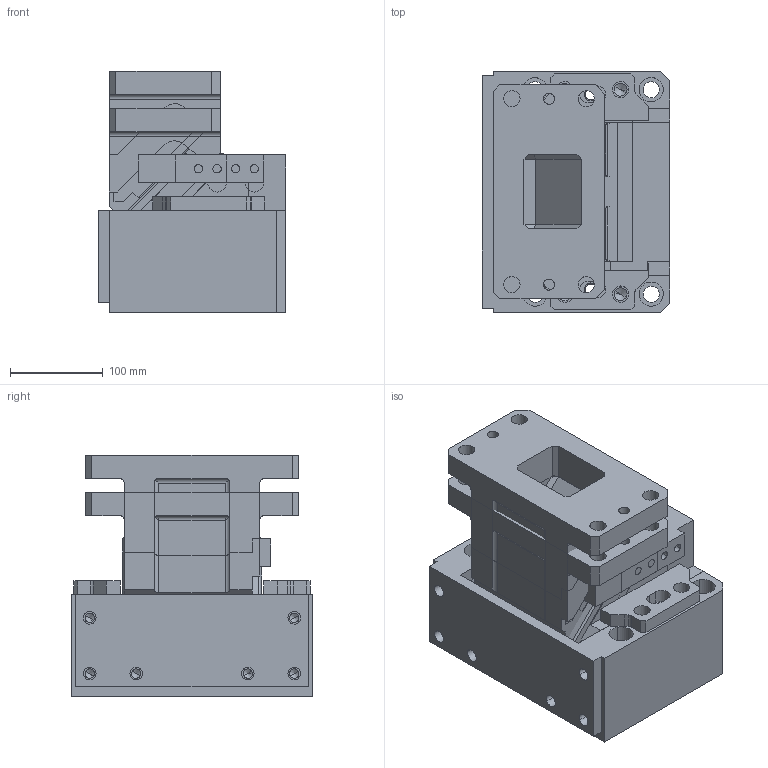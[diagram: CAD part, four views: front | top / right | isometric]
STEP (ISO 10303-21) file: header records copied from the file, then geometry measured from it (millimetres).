
FILE_DESCRIPTION(('CATIA V5 STEP','CAx-IF Rec.Pracs.--- Model Styling and Organization---1.4--- 2014-01-23','CAx-IF Rec.Pracs.---3D Tessellated Data Validation Properties---0.5---2014-09-14'),'2;1');
FILE_NAME('H:\_COMPRESS_2\2016.14.00.150.040.1.2__CM.stp','2020-11-18T12:53:12+00:00',('${USER}'),('AUDI AG, ${GROUP}'),'CATIA Version 5-6 Release 2018 SP3 HF27','CATIA V5 STEP AP242','none');
FILE_SCHEMA(('AP242_MANAGED_MODEL_BASED_3D_ENGINEERING_MIM_LF {1 0 10303 442 1 1 4}'));
Length unit declared in the file: millimetre
Products named in the file (1): 2016.14.00.150.040.1.2__CM
Bounding box: 202 x 260 x 260 mm (x, y, z)
Volume: 10660516.3 mm3; surface area: 871840.4 mm2
Topology: 4 solids, 6 shells, 756 faces, 1871 edges, 1174 vertices
Faces by surface type: plane 373, cylinder 301, cone 44, torus 32, sphere 4, bspline 2
Entity records: 21264 total; most frequent: CARTESIAN_POINT 4491, ORIENTED_EDGE 3660, DIRECTION 2845, EDGE_CURVE 1830, VERTEX_POINT 1172, AXIS2_PLACEMENT_3D 1154, VECTOR 1133, LINE 1133
